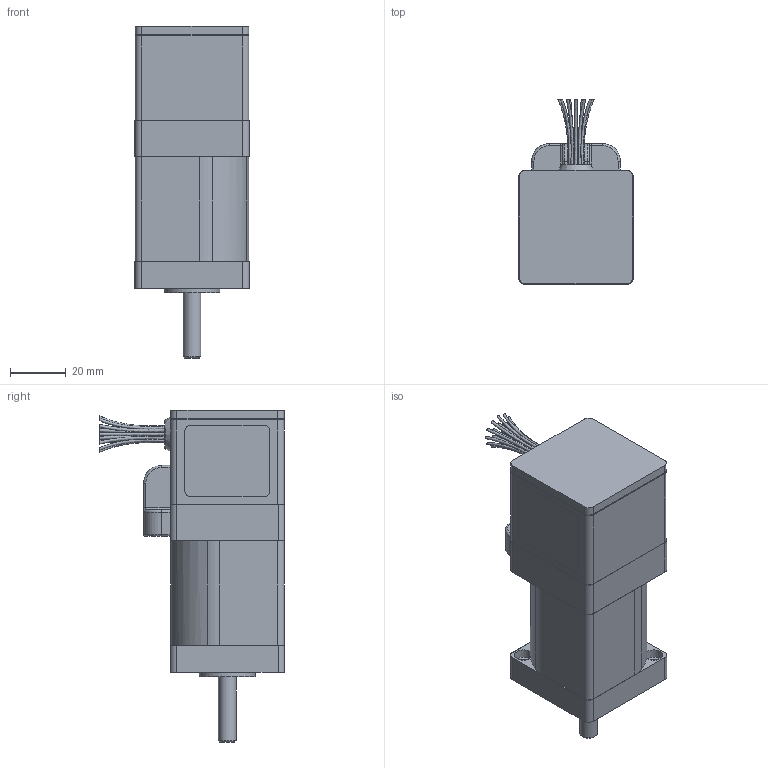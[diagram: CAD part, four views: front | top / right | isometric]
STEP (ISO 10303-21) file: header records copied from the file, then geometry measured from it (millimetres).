
FILE_DESCRIPTION((''),'2;1');
FILE_NAME('C:\CAD_work\Dummy_Modeling_Project_02-12-05\3D MODELS\BE163_FL.stp','2005-12-20T15:13:25',('jevans'),(''),'Autodesk Inventor 10','Autodesk Inventor 10','');
FILE_SCHEMA(('AUTOMOTIVE_DESIGN { 1 0 10303 214 1 1 1 1 }'));
Length unit declared in the file: inch
Products named in the file (1): BE16_FL
Bounding box: 40.89 x 66.17 x 118.77 mm (x, y, z)
Volume: 154259.8 mm3; surface area: 22831.7 mm2
Topology: 1 solids, 1 shells, 210 faces, 503 edges, 310 vertices
Faces by surface type: plane 100, cylinder 71, bspline 28, torus 10, cone 1
Full cylindrical faces by diameter (mm): 1.7 x2, 6.35 x2, 8.992 x1, 11.176 x1, 15.697 x1, 17 x1, 17.018 x2, 18.009 x1, 20.015 x1
Entity records: 8246 total; most frequent: CARTESIAN_POINT 3418, DIRECTION 1019, ORIENTED_EDGE 948, EDGE_CURVE 474, AXIS2_PLACEMENT_3D 410, VERTEX_POINT 303, EDGE_LOOP 279, CIRCLE 215
